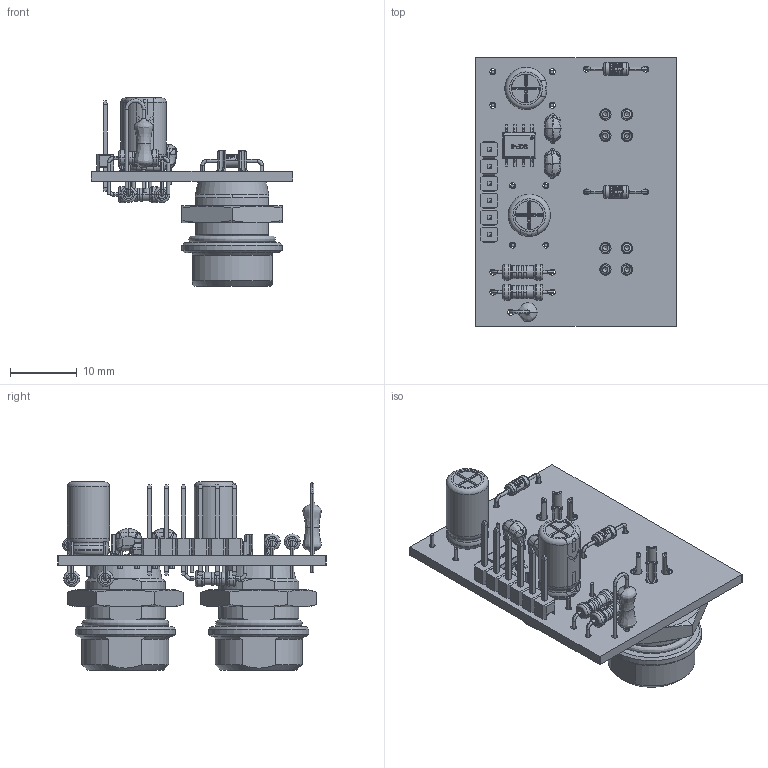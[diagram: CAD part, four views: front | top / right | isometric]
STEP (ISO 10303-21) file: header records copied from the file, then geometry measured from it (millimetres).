
FILE_DESCRIPTION(('Open CASCADE Model'),'2;1');
FILE_NAME('Open CASCADE Shape Model','2024-12-21T13:49:55',('Author'),( 'Open CASCADE'),'Open CASCADE STEP processor 6.5','Open CASCADE 6.5' ,'Unknown');
FILE_SCHEMA(('AUTOMOTIVE_DESIGN { 1 0 10303 214 1 1 1 1 }'));
Length unit declared in the file: millimetre
Products named in the file (33): PCB; Board; U1; SOP-8; R6; RES_AH_0.25W_350mil_0R_1%; R5; R4; R3; R2; R1; J3; 1x6_Male_Pin_Header; J2; GX12-4_Jack; Body; Body001; Body002; Body004; Array; Body003; J1; D2; DO-35_Normal_350mil_rev1.1; D1; C4; CAPPRD250W50D630H1100; C3; Ceramic_Cap,_2.54mm_lead_spacing,_4mm_width,_and_5_5mm_tall,_v4_v2; C2; C1; F1; FUS_AV_type_251_100mil
Assembly tree (44 placements, depth 5):
  PCB
    Board
    U1
      SOP-8
    R6
      RES_AH_0.25W_350mil_0R_1%
    R5
      RES_AH_0.25W_350mil_0R_1%
    R4
      RES_AH_0.25W_350mil_0R_1%
    R3
      RES_AH_0.25W_350mil_0R_1%
    R2
      RES_AH_0.25W_350mil_0R_1%
    R1
      RES_AH_0.25W_350mil_0R_1%
    J3
      1x6_Male_Pin_Header
    J2
      GX12-4_Jack
        Body
        Body001
        Body002
        Body004
        Array
          Body003  x4
    J1
      GX12-4_Jack
        Body
        Body001
        Body002
        Body004
        Array
          Body003  x4
    D2
      DO-35_Normal_350mil_rev1.1
    D1
      DO-35_Normal_350mil_rev1.1
    C4
      CAPPRD250W50D630H1100
    C3
      Ceramic_Cap,_2.54mm_lead_spacing,_4mm_width,_and_5_5mm_tall,_v4_v2
    C2
      Ceramic_Cap,_2.54mm_lead_spacing,_4mm_width,_and_5_5mm_tall,_v4_v2
    C1
      CAPPRD250W50D630H1100
    F1
      FUS_AV_type_251_100mil
Bounding box: 30.22 x 40.22 x 28.19 mm (x, y, z)
Volume: 5367.6 mm3; surface area: 9971.5 mm2
Topology: 52 solids, 56 shells, 1681 faces, 4654 edges, 3140 vertices
Faces by surface type: plane 679, cylinder 469, bspline 219, torus 142, cone 84, sphere 54, revolution 34
Full cylindrical faces by diameter (mm): 0.5 x4, 0.8 x16, 0.9 x18, 1.2 x6, 1.4 x16, 1.7 x8, 2 x16, 4.3 x6, 6.3 x2, 9.6 x2, 11 x2, 12 x2, 15 x2
Entity records: 101403 total; most frequent: CARTESIAN_POINT 46613, DIRECTION 7755, ORIENTED_EDGE 5618, PCURVE 5618, DEFINITIONAL_REPRESENTATION 5618, LINE 4462, VECTOR 4462, B_SPLINE_CURVE_WITH_KNOTS 2935
